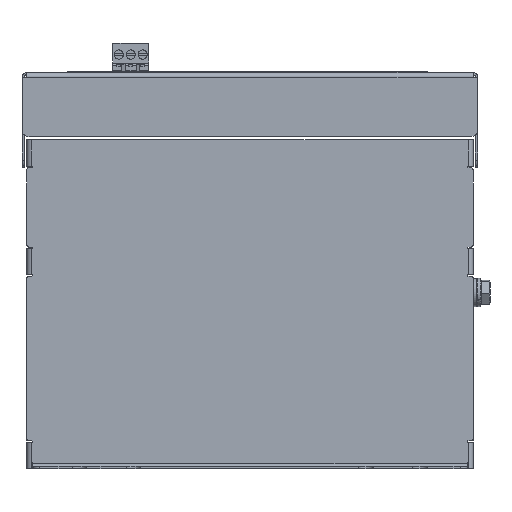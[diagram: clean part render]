
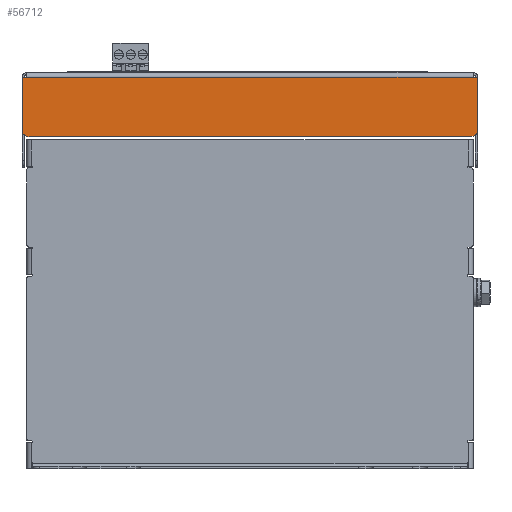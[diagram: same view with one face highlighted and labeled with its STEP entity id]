
A CAD part, left-side view. The second image highlights one B-rep face of the part: STEP entity #56712.
In plain terms, the highlighted planar face has unit normal (-1, 0, 0).
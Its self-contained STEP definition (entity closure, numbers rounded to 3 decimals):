
#56712=ADVANCED_FACE('',(#107496),#107498,.T.);
#107496=FACE_BOUND('',#107497,.T.);
#107497=EDGE_LOOP('',(#150948,#150949,#150950,#150951,#150952,#150953,#150954,#150955,
#150956,#150957));
#107498=PLANE('',#107499);
#107499=AXIS2_PLACEMENT_3D('',#107500,#107501,#107502);
#107500=CARTESIAN_POINT('',(-50.,0.,122.1));
#107501=DIRECTION('',(-1.,0.,0.));
#107502=DIRECTION('',(0.,-1.,0.));
#150948=ORIENTED_EDGE('',*,*,#172212,.F.);
#150949=ORIENTED_EDGE('',*,*,#172226,.T.);
#150950=ORIENTED_EDGE('',*,*,#172225,.F.);
#150951=ORIENTED_EDGE('',*,*,#172223,.T.);
#150952=ORIENTED_EDGE('',*,*,#172221,.F.);
#150953=ORIENTED_EDGE('',*,*,#172219,.T.);
#150954=ORIENTED_EDGE('',*,*,#171368,.T.);
#150955=ORIENTED_EDGE('',*,*,#172217,.T.);
#150956=ORIENTED_EDGE('',*,*,#172216,.F.);
#150957=ORIENTED_EDGE('',*,*,#172213,.T.);
#171368=EDGE_CURVE('',#202811,#202807,#202852,.T.);
#172212=EDGE_CURVE('',#204116,#204114,#204118,.F.);
#172213=EDGE_CURVE('',#204119,#204114,#204120,.T.);
#172216=EDGE_CURVE('',#204119,#204122,#204124,.F.);
#172217=EDGE_CURVE('',#202807,#204122,#204125,.T.);
#172219=EDGE_CURVE('',#204126,#202811,#204128,.T.);
#172221=EDGE_CURVE('',#204126,#204129,#204131,.F.);
#172223=EDGE_CURVE('',#204132,#204129,#204134,.T.);
#172225=EDGE_CURVE('',#204132,#204135,#204137,.F.);
#172226=EDGE_CURVE('',#204116,#204135,#204138,.T.);
#202807=VERTEX_POINT('',#288002);
#202811=VERTEX_POINT('',#288013);
#202852=LINE('',#288125,#288126);
#204114=VERTEX_POINT('',#293819);
#204116=VERTEX_POINT('',#293823);
#204118=CIRCLE('',#293827,3.);
#204119=VERTEX_POINT('',#293831);
#204120=LINE('',#293832,#293833);
#204122=VERTEX_POINT('',#293838);
#204124=CIRCLE('',#293842,1.);
#204125=LINE('',#293846,#293847);
#204126=VERTEX_POINT('',#293849);
#204128=LINE('',#293853,#293854);
#204129=VERTEX_POINT('',#293856);
#204131=CIRCLE('',#293860,1.);
#204132=VERTEX_POINT('',#293864);
#204134=LINE('',#293868,#293869);
#204135=VERTEX_POINT('',#293871);
#204137=CIRCLE('',#293875,3.);
#204138=LINE('',#293879,#293880);
#288002=CARTESIAN_POINT('',(-50.,95.,120.1));
#288013=CARTESIAN_POINT('',(-50.,-95.,120.1));
#288125=CARTESIAN_POINT('',(-50.,-95.,120.1));
#288126=VECTOR('',#288127,1.);
#288127=DIRECTION('',(0.,1.,0.));
#293819=CARTESIAN_POINT('',(-50.,97.,97.8));
#293823=CARTESIAN_POINT('',(-50.,94.,94.8));
#293827=AXIS2_PLACEMENT_3D('',#293828,#293829,#293830);
#293828=CARTESIAN_POINT('',(-50.,94.,97.8));
#293829=DIRECTION('',(-1.,0.,0.));
#293830=DIRECTION('',(0.,1.,0.));
#293831=CARTESIAN_POINT('',(-50.,97.,119.1));
#293832=CARTESIAN_POINT('',(-50.,97.,119.1));
#293833=VECTOR('',#293834,1.);
#293834=DIRECTION('',(0.,0.,-1.));
#293838=CARTESIAN_POINT('',(-50.,96.,120.1));
#293842=AXIS2_PLACEMENT_3D('',#293843,#293844,#293845);
#293843=CARTESIAN_POINT('',(-50.,96.,119.1));
#293844=DIRECTION('',(-1.,0.,0.));
#293845=DIRECTION('',(0.,0.,1.));
#293846=CARTESIAN_POINT('',(-50.,95.,120.1));
#293847=VECTOR('',#293848,1.);
#293848=DIRECTION('',(0.,1.,0.));
#293849=CARTESIAN_POINT('',(-50.,-96.,120.1));
#293853=CARTESIAN_POINT('',(-50.,-96.,120.1));
#293854=VECTOR('',#293855,1.);
#293855=DIRECTION('',(0.,1.,0.));
#293856=CARTESIAN_POINT('',(-50.,-97.,119.1));
#293860=AXIS2_PLACEMENT_3D('',#293861,#293862,#293863);
#293861=CARTESIAN_POINT('',(-50.,-96.,119.1));
#293862=DIRECTION('',(-1.,0.,0.));
#293863=DIRECTION('',(0.,-1.,0.));
#293864=CARTESIAN_POINT('',(-50.,-97.,97.8));
#293868=CARTESIAN_POINT('',(-50.,-97.,97.8));
#293869=VECTOR('',#293870,1.);
#293870=DIRECTION('',(0.,0.,1.));
#293871=CARTESIAN_POINT('',(-50.,-94.,94.8));
#293875=AXIS2_PLACEMENT_3D('',#293876,#293877,#293878);
#293876=CARTESIAN_POINT('',(-50.,-94.,97.8));
#293877=DIRECTION('',(-1.,0.,0.));
#293878=DIRECTION('',(0.,0.,-1.));
#293879=CARTESIAN_POINT('',(-50.,94.,94.8));
#293880=VECTOR('',#293881,1.);
#293881=DIRECTION('',(0.,-1.,0.));
